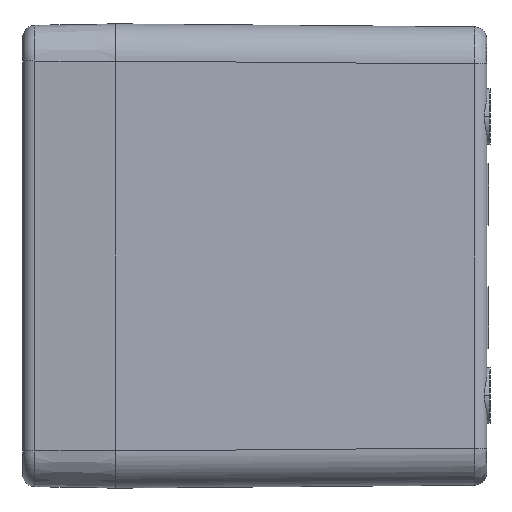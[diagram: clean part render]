
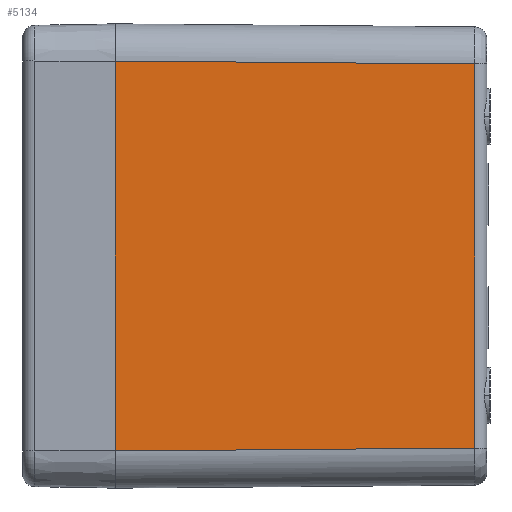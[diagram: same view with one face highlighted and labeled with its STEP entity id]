
A CAD part, left-side view. The second image highlights one B-rep face of the part: STEP entity #5134.
In plain terms, the highlighted planar face has unit normal (-1, -0.008, 0).
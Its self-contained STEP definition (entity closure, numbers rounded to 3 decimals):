
#658=CARTESIAN_POINT('',(-40.,0.,-31.5));
#710=CARTESIAN_POINT('',(-40.,0.,31.5));
#723=DIRECTION('',(0.,0.,-1.));
#724=VECTOR('',#723,63.);
#725=CARTESIAN_POINT('',(-40.,0.,31.5));
#726=LINE('',#725,#724);
#1754=DIRECTION('',(0.,0.,1.));
#1755=VECTOR('',#1754,62.033);
#1756=CARTESIAN_POINT('',(-39.517,-58.017,
-31.017));
#1757=LINE('',#1756,#1755);
#1813=DIRECTION('',(-0.008,1.,-0.008));
#1814=VECTOR('',#1813,58.021);
#1815=CARTESIAN_POINT('',(-39.517,-58.017,
-31.017));
#1816=LINE('',#1815,#1814);
#1820=DIRECTION('',(-0.008,1.,0.008));
#1821=VECTOR('',#1820,58.021);
#1822=CARTESIAN_POINT('',(-39.517,-58.017,
31.017));
#1823=LINE('',#1822,#1821);
#1827=CARTESIAN_POINT('',(-39.517,-58.017,
-31.017));
#1938=CARTESIAN_POINT('',(-39.517,-58.017,
31.017));
#3544=VERTEX_POINT('',#658);
#3549=VERTEX_POINT('',#710);
#3553=VERTEX_POINT('',#1827);
#3570=VERTEX_POINT('',#1938);
#5121=CARTESIAN_POINT('',(-39.75,-30.,0.));
#5122=DIRECTION('',(1.,0.008,0.));
#5123=DIRECTION('',(-0.008,1.,0.));
#5124=AXIS2_PLACEMENT_3D('',#5121,#5122,#5123);
#5125=PLANE('',#5124);
#5126=ORIENTED_EDGE('',*,*,#5081,.F.);
#5128=ORIENTED_EDGE('',*,*,#5127,.T.);
#5129=ORIENTED_EDGE('',*,*,#4004,.F.);
#5131=ORIENTED_EDGE('',*,*,#5130,.F.);
#5132=EDGE_LOOP('',(#5126,#5128,#5129,#5131));
#5133=FACE_OUTER_BOUND('',#5132,.F.);
#4004=EDGE_CURVE('',#3549,#3544,#726,.T.);
#5081=EDGE_CURVE('',#3553,#3570,#1757,.T.);
#5127=EDGE_CURVE('',#3553,#3544,#1816,.T.);
#5130=EDGE_CURVE('',#3570,#3549,#1823,.T.);
#5134=ADVANCED_FACE('',(#5133),#5125,.F.);
